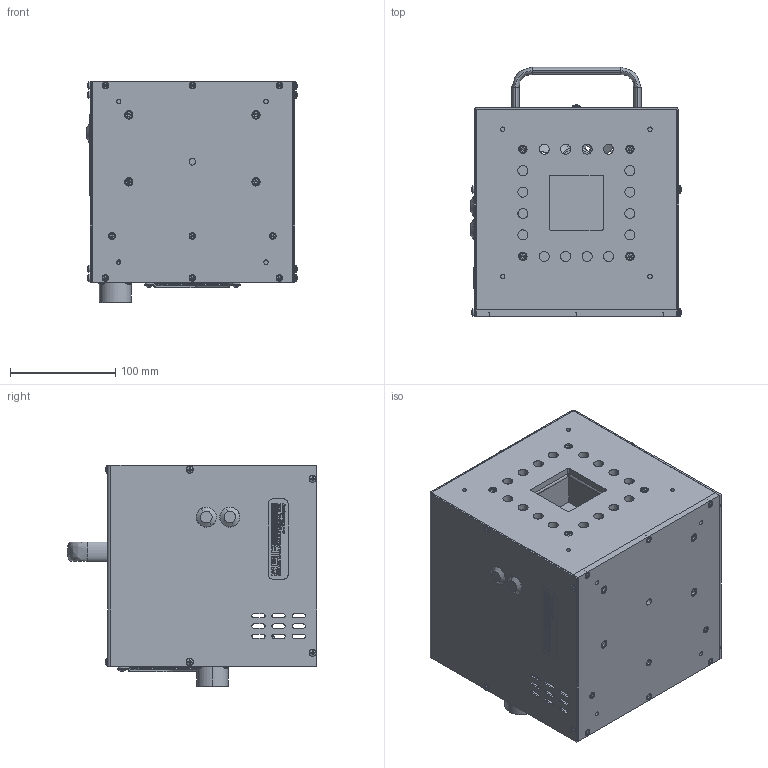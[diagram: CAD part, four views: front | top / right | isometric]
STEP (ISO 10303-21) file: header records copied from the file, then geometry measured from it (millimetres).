
FILE_DESCRIPTION (( 'STEP AP203' ), '1' );
FILE_NAME ('319-001-327_NC.STEP', '2014-09-16T16:28:55', ( '' ), ( '' ), 'SwSTEP 2.0', 'SolidWorks 2013', '' );
FILE_SCHEMA (( 'CONFIG_CONTROL_DESIGN' ));
Length unit declared in the file: inch
Products named in the file (1): 319-001-327_NC
Bounding box: 199.81 x 236.9 x 209.8 mm (x, y, z)
Volume: 1029916.4 mm3; surface area: 565073.7 mm2
Topology: 62 solids, 65 shells, 3760 faces, 9486 edges, 6096 vertices
Faces by surface type: plane 2249, cylinder 695, bspline 459, cone 176, torus 135, sphere 46
Entity records: 131708 total; most frequent: CARTESIAN_POINT 42672, ORIENTED_EDGE 18888, DIRECTION 17248, EDGE_CURVE 9444, VERTEX_POINT 6096, LINE 5866, VECTOR 5866, AXIS2_PLACEMENT_3D 5691
